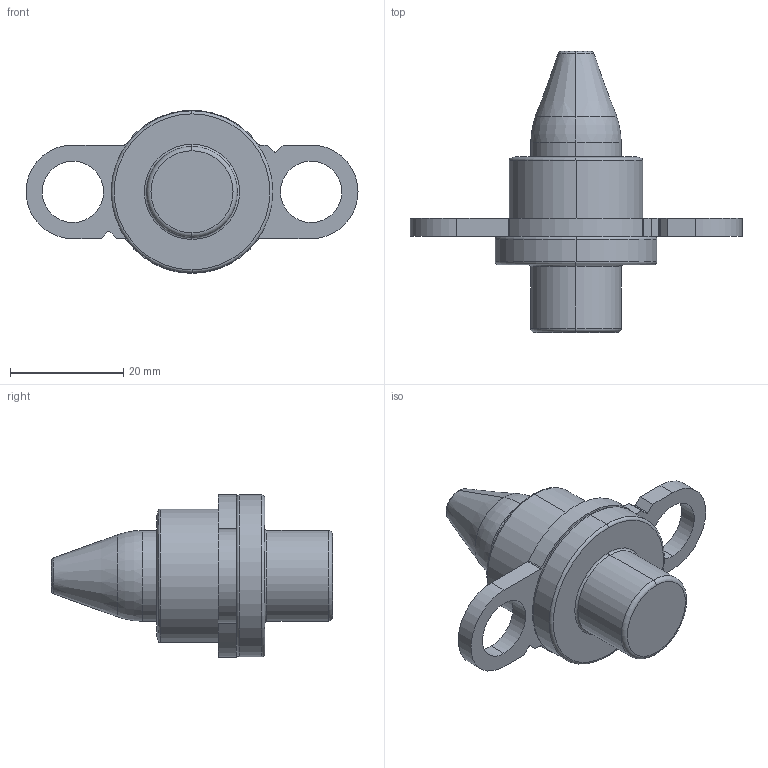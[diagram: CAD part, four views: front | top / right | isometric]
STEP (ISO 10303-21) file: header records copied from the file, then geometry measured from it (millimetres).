
FILE_DESCRIPTION (( 'STEP AP214' ), '1' );
FILE_NAME ('PA-16mm-2.5mm-R-F.stp', '2020-05-01T19:03:00', ( '' ), ( '' ), 'SwSTEP 2.0', 'SolidWorks 2017', '' );
FILE_SCHEMA (( 'AUTOMOTIVE_DESIGN' ));
Length unit declared in the file: inch
Products named in the file (1): PA-16mm-2.5mm-R-F
Bounding box: 58.51 x 49.53 x 28.7 mm (x, y, z)
Volume: 15526.8 mm3; surface area: 5712 mm2
Topology: 2 solids, 2 shells, 63 faces, 150 edges, 94 vertices
Faces by surface type: cylinder 28, plane 17, torus 14, cone 4
Entity records: 1911 total; most frequent: DIRECTION 366, CARTESIAN_POINT 308, ORIENTED_EDGE 300, AXIS2_PLACEMENT_3D 152, EDGE_CURVE 150, VERTEX_POINT 94, CIRCLE 88, EDGE_LOOP 72
